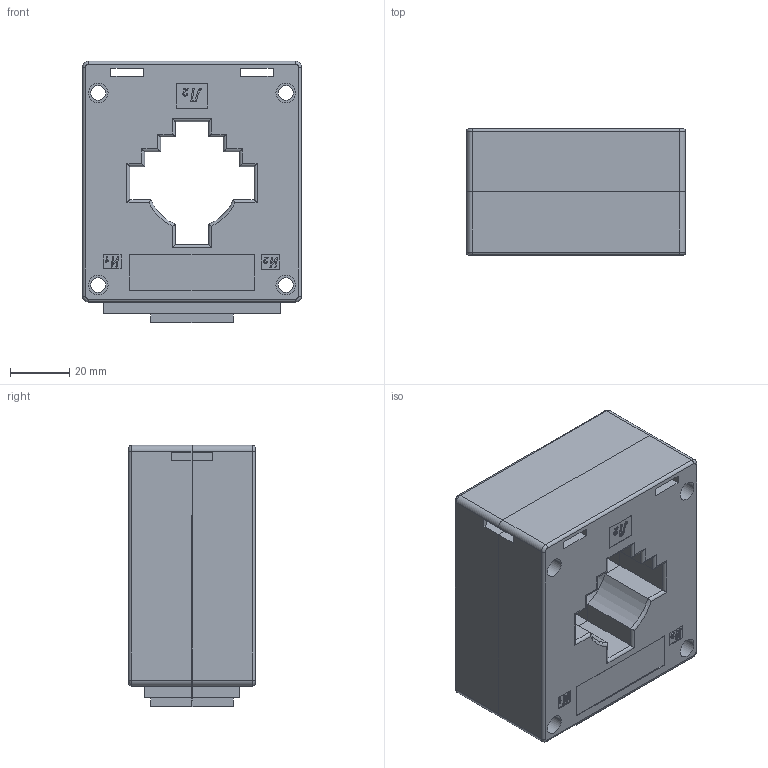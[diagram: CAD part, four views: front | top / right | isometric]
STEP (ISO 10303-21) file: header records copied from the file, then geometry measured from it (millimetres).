
FILE_DESCRIPTION (( 'STEP AP214' ), '1' );
FILE_NAME ('互感器40.STEP', '2015-06-12T00:33:00', ( 'User' ), ( 'Microsoft' ), 'SwSTEP 2.0', 'SolidWorks 2012', '' );
FILE_SCHEMA (( 'AUTOMOTIVE_DESIGN' ));
Length unit declared in the file: millimetre
Products named in the file (3): 40狟; 40奻; 誑覜ん40
Assembly tree (2 placements, depth 2):
  誑覜ん40
    40狟
    40奻
Bounding box: 74 x 42.8 x 88.4 mm (x, y, z)
Volume: 61646.6 mm3; surface area: 68703.4 mm2
Topology: 2 solids, 2 shells, 711 faces, 1941 edges, 1274 vertices
Faces by surface type: plane 449, cylinder 144, bspline 106, torus 12
Entity records: 26977 total; most frequent: CARTESIAN_POINT 9497, ORIENTED_EDGE 3882, DIRECTION 3109, EDGE_CURVE 1941, VECTOR 1465, LINE 1465, VERTEX_POINT 1274, AXIS2_PLACEMENT_3D 822
